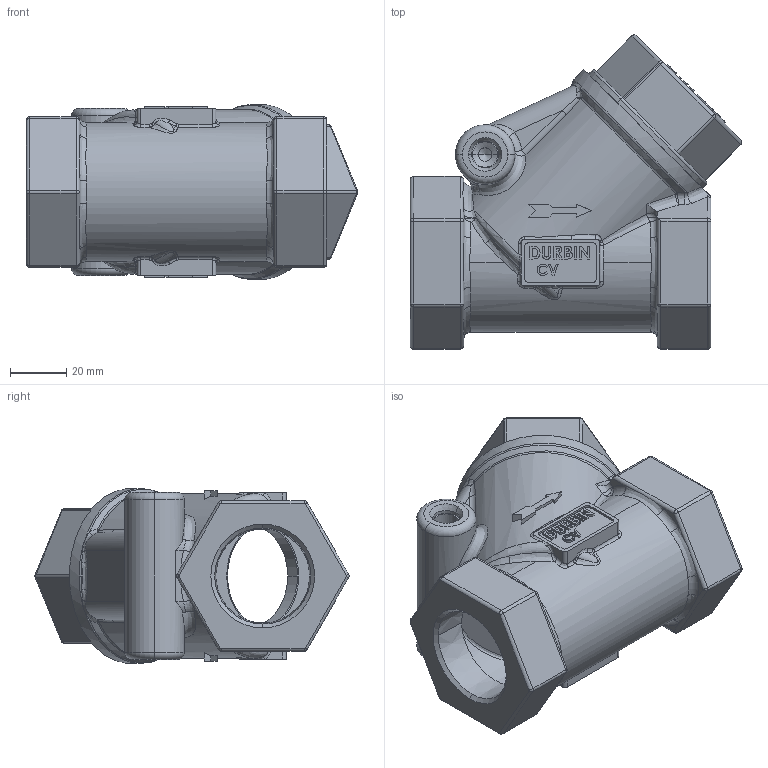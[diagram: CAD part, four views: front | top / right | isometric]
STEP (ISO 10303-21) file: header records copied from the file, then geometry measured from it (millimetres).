
FILE_DESCRIPTION (( 'STEP AP203' ), '1' );
FILE_NAME ('1.00-1.25 2W NPT CV-STEP.STEP', '2018-11-07T16:16:54', ( '' ), ( '' ), 'SwSTEP 2.0', 'SolidWorks 2012', '' );
FILE_SCHEMA (( 'CONFIG_CONTROL_DESIGN' ));
Length unit declared in the file: inch
Products named in the file (3): 1.00-1.25 2W NPT CV-STEP; CV300-SS; CV306-SS
Assembly tree (2 placements, depth 2):
  1.00-1.25 2W NPT CV-STEP
    CV306-SS
    CV300-SS
Bounding box: 117.5 x 111.33 x 61.95 mm (x, y, z)
Volume: 158955.5 mm3; surface area: 67627.2 mm2
Topology: 2 solids, 2 shells, 1020 faces, 2576 edges, 1623 vertices
Faces by surface type: plane 478, bspline 294, cylinder 124, torus 58, sphere 40, cone 26
Entity records: 45787 total; most frequent: CARTESIAN_POINT 23061, ORIENTED_EDGE 5096, DIRECTION 3874, EDGE_CURVE 2548, VERTEX_POINT 1615, LINE 1424, VECTOR 1424, AXIS2_PLACEMENT_3D 1225
